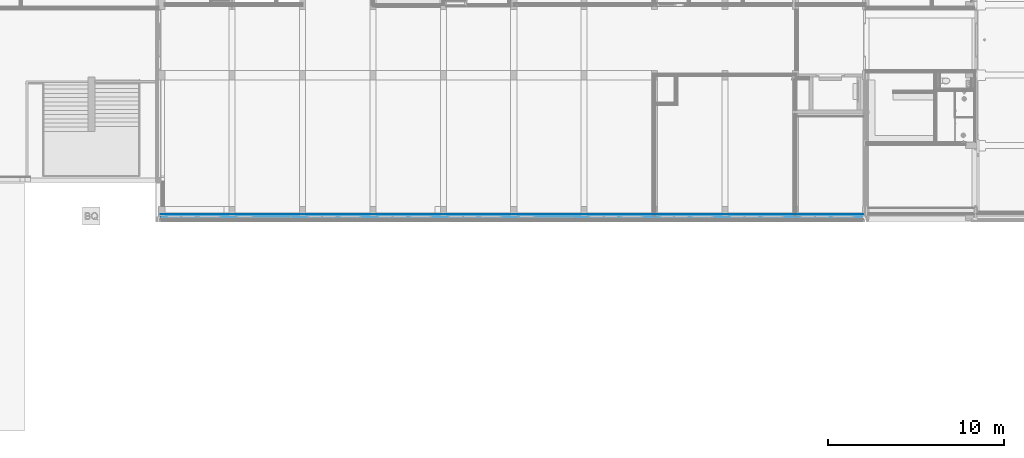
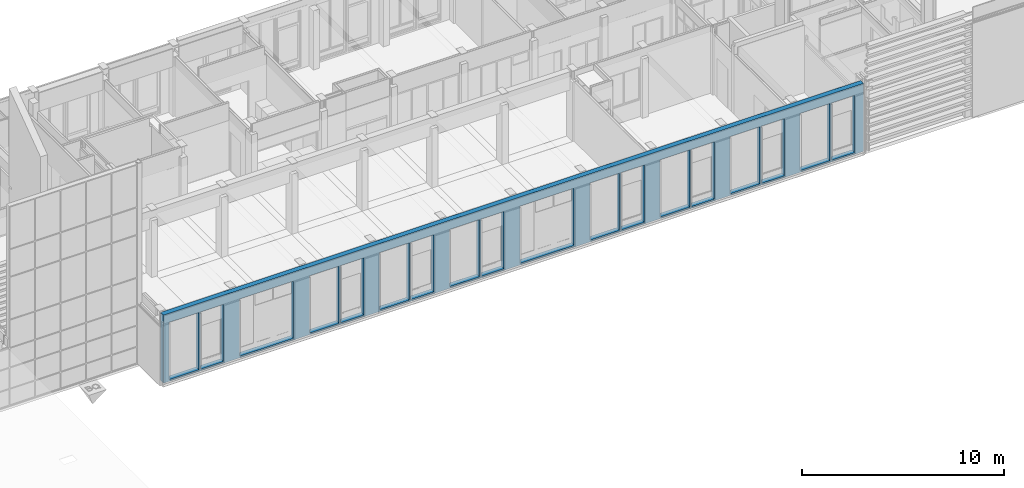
# One storey, part 56 of 109: 2 building element parts, 18 openings, 1 element without a shape of its own.
"""IFC2X3 building model written with IfcOpenShell, lengths in millimetres."""

from ifc_helpers import new_model, entity, si_unit, converted_unit, derived_unit, money_unit, direction, frame, origin_with_axes, place, context, subcontext, project, spatial, faceted_brep, material, type_object, element, aggregate, save


model = new_model("IFC2X3")

# Units and contexts
model_context = context("Model", 3, precision=0.01, world=origin_with_axes(), true_north=direction((0.0, 1.0)))
body_context = subcontext(model_context, "Body", "Model", "MODEL_VIEW")
ifc_project = project(units=[si_unit("LENGTHUNIT", "METRE", prefix="MILLI"), si_unit("AREAUNIT", "SQUARE_METRE"), si_unit("VOLUMEUNIT", "CUBIC_METRE"), converted_unit("PLANEANGLEUNIT", "DEGREE", entity("IfcPlaneAngleMeasure", 0.0174532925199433), si_unit("PLANEANGLEUNIT", "RADIAN"), dimensions=[0, 0, 0, 0, 0, 0, 0]), money_unit("EUR"), converted_unit("TIMEUNIT", "Year", entity("IfcTimeMeasure", 31557600.0), si_unit("TIMEUNIT", "SECOND"), dimensions=[0, 0, 1, 0, 0, 0, 0]), si_unit("MASSUNIT", "GRAM", prefix="KILO"), si_unit("THERMODYNAMICTEMPERATUREUNIT", "DEGREE_CELSIUS"), si_unit("LUMINOUSINTENSITYUNIT", "LUMEN"), si_unit("ENERGYUNIT", "JOULE", prefix="MEGA"), derived_unit("THERMALCONDUCTANCEUNIT", [(si_unit("POWERUNIT", "WATT"), 1), (si_unit("LENGTHUNIT", "METRE"), -1), (si_unit("THERMODYNAMICTEMPERATUREUNIT", "KELVIN"), -1)]), derived_unit("SPECIFICHEATCAPACITYUNIT", [(si_unit("ENERGYUNIT", "JOULE"), 1), (si_unit("MASSUNIT", "GRAM", prefix="KILO"), -1), (si_unit("THERMODYNAMICTEMPERATUREUNIT", "KELVIN"), -1)]), derived_unit("MASSDENSITYUNIT", [(si_unit("MASSUNIT", "GRAM", prefix="KILO"), 1), (si_unit("VOLUMEUNIT", "CUBIC_METRE"), -1)])], contexts=[model_context])

# Site, building, storey
site_placement = place(None, origin_with_axes())
site = spatial("IfcSite", under=ifc_project, at=site_placement, Name="<site naam>", CompositionType="ELEMENT")
building_placement = place(site_placement, origin_with_axes())
building = spatial("IfcBuilding", under=site, at=building_placement, Name="<Naam gebouw>", CompositionType="ELEMENT")
storey_placement = place(building_placement, origin_with_axes())
storey = spatial("IfcBuildingStorey", under=building, at=storey_placement, Name="00 Begane grond", CompositionType="ELEMENT", Elevation=0.0)

# Wall, openings, building element parts
wall_type = type_object("IfcWallType", Name="HSB_285 gevelbeplating 420", PredefinedType="NOTDEFINED")
wall_placement = place(storey_placement, frame((51865.00000000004, -297.9999999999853, 0.0), z_axis=(0.0, 0.0, 1.0), x_axis=(-1.0, 0.0, 0.0)))
wall = element("IfcWall", 1, at=wall_placement, inside=storey, type_object=wall_type, Name="21_Binnenwand_HSB_285")
opening_1_placement = place(wall_placement, frame((37163.99999999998, 0.0, 100.0), z_axis=(0.0, 0.0, 1.0), x_axis=(1.0, 0.0, 0.0)))
element("IfcOpeningElement", 2, at=opening_1_placement, cuts=wall, Name="21_BU-A-01b_305", context=body_context, shape_type="Brep", body=[
    faceted_brep([(-663.0000000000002, -212.9999999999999, 0.0), (-663.0000000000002, -212.9999999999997, 3450.0), (-663.0000000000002, 1.000000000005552, 3450.0), (-663.0000000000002, 1.00000000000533, 0.0), (-663.0000000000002, -421.0000000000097, 0.0), (-663.0000000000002, -421.0000000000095, 3450.0), (663.0000000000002, -212.9999999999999, 3450.0), (663.0000000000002, 1.000000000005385, 3450.0), (663.0000000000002, 1.000000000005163, 0.0), (663.0000000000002, -213.0000000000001, 0.0), (663.0000000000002, -421.0000000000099, 0.0), (663.0000000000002, -421.0000000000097, 3450.0)], [[[0, 1, 2, 3]], [[1, 0, 4, 5]], [[1, 6, 7, 2]], [[7, 8, 3, 2]], [[9, 0, 3, 8]], [[0, 9, 10, 4]], [[5, 4, 10, 11]], [[6, 1, 5, 11]], [[6, 9, 8, 7]], [[9, 6, 11, 10]]]),
])
opening_2_placement = place(wall_placement, frame((38753.9999887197, 0.0, 100.0), z_axis=(0.0, 0.0, 1.0), x_axis=(1.0, 0.0, 0.0)))
element("IfcOpeningElement", 3, at=opening_2_placement, cuts=wall, Name="21_BU-A-01a_305", context=body_context, shape_type="Brep", body=[
    faceted_brep([(-850.9999999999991, -212.9999999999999, 0.0), (-850.9999999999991, -212.9999999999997, 3450.0), (-850.9999999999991, 1.000000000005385, 3450.0), (-850.9999999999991, 1.000000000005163, 0.0), (-850.9999999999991, -421.0000000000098, 0.0), (-850.9999999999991, -421.0000000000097, 3450.0), (850.9999999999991, -212.9999999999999, 3450.0), (851.0000000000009, 1.000000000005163, 3450.0), (851.0000000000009, 1.000000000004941, 0.0), (850.9999999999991, -213.0000000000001, 0.0), (850.9999999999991, -421.00000000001, 0.0), (850.9999999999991, -421.0000000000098, 3450.0)], [[[0, 1, 2, 3]], [[1, 0, 4, 5]], [[1, 6, 7, 2]], [[7, 8, 3, 2]], [[9, 0, 3, 8]], [[0, 9, 10, 4]], [[5, 4, 10, 11]], [[6, 1, 5, 11]], [[6, 9, 8, 7]], [[9, 6, 11, 10]]]),
])
opening_3_placement = place(wall_placement, frame((29164.04998845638, 0.0, 100.0), z_axis=(0.0, 0.0, 1.0), x_axis=(1.0, 0.0, 0.0)))
element("IfcOpeningElement", 4, at=opening_3_placement, cuts=wall, Name="21_BU-A-01b_305", context=body_context, shape_type="Brep", body=[
    faceted_brep([(-663.0000000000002, -212.9999999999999, 0.0), (-663.0000000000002, -212.9999999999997, 3450.0), (-663.0000000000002, 1.000000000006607, 3450.0), (-663.0000000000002, 1.000000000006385, 0.0), (-663.0000000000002, -421.0000000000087, 0.0), (-663.0000000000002, -421.0000000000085, 3450.0), (663.0000000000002, -212.9999999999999, 3450.0), (663.0000000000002, 1.000000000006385, 3450.0), (663.0000000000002, 1.000000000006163, 0.0), (663.0000000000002, -213.0000000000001, 0.0), (663.0000000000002, -421.0000000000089, 0.0), (663.0000000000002, -421.0000000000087, 3450.0)], [[[0, 1, 2, 3]], [[1, 0, 4, 5]], [[1, 6, 7, 2]], [[7, 8, 3, 2]], [[9, 0, 3, 8]], [[0, 9, 10, 4]], [[5, 4, 10, 11]], [[6, 1, 5, 11]], [[6, 9, 8, 7]], [[9, 6, 11, 10]]]),
])
opening_4_placement = place(wall_placement, frame((26754.00000000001, 0.0, 100.0), z_axis=(0.0, 0.0, 1.0), x_axis=(1.0, 0.0, 0.0)))
element("IfcOpeningElement", 5, at=opening_4_placement, cuts=wall, Name="21_BU-A-01a_305", context=body_context, shape_type="Brep", body=[
    faceted_brep([(-850.9999999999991, -212.9999999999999, 0.0), (-850.9999999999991, -212.9999999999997, 3450.0), (-850.9999999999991, 1.000000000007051, 3450.0), (-850.9999999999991, 1.000000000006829, 0.0), (-850.9999999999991, -421.0000000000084, 0.0), (-850.9999999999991, -421.0000000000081, 3450.0), (850.9999999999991, -212.9999999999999, 3450.0), (850.9999999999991, 1.000000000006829, 3450.0), (850.9999999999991, 1.000000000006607, 0.0), (850.9999999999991, -213.0000000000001, 0.0), (850.9999999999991, -421.0000000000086, 0.0), (850.9999999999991, -421.0000000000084, 3450.0)], [[[0, 1, 2, 3]], [[1, 0, 4, 5]], [[1, 6, 7, 2]], [[7, 8, 3, 2]], [[9, 0, 3, 8]], [[0, 9, 10, 4]], [[5, 4, 10, 11]], [[6, 1, 5, 11]], [[6, 9, 8, 7]], [[9, 6, 11, 10]]]),
])
opening_5_placement = place(wall_placement, frame((25163.98053643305, 0.0, 100.0), z_axis=(0.0, 0.0, 1.0), x_axis=(1.0, 0.0, 0.0)))
element("IfcOpeningElement", 6, at=opening_5_placement, cuts=wall, Name="21_BU-A-01b_305", context=body_context, shape_type="Brep", body=[
    faceted_brep([(-663.0000000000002, -212.9999999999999, 0.0), (-663.0000000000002, -212.9999999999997, 3450.0), (-663.0000000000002, 1.000000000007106, 3450.0), (-663.0000000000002, 1.000000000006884, 0.0), (-663.0000000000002, -421.0000000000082, 0.0), (-663.0000000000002, -421.000000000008, 3450.0), (663.0000000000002, -212.9999999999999, 3450.0), (663.0000000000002, 1.00000000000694, 3450.0), (663.0000000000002, 1.000000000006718, 0.0), (663.0000000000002, -213.0000000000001, 0.0), (663.0000000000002, -421.0000000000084, 0.0), (663.0000000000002, -421.0000000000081, 3450.0)], [[[0, 1, 2, 3]], [[1, 0, 4, 5]], [[1, 6, 7, 2]], [[7, 8, 3, 2]], [[9, 0, 3, 8]], [[0, 9, 10, 4]], [[5, 4, 10, 11]], [[6, 1, 5, 11]], [[6, 9, 8, 7]], [[9, 6, 11, 10]]]),
])
opening_6_placement = place(wall_placement, frame((13164.00001128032, 0.0, 100.0), z_axis=(0.0, 0.0, 1.0), x_axis=(1.0, 0.0, 0.0)))
element("IfcOpeningElement", 7, at=opening_6_placement, cuts=wall, Name="21_BU-A-01b_305", context=body_context, shape_type="Brep", body=[
    faceted_brep([(-662.9999999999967, -212.9999999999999, 0.0), (-662.9999999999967, -212.9999999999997, 3450.0), (-662.9999999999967, 1.000000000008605, 3450.0), (-662.9999999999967, 1.000000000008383, 0.0), (-662.9999999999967, -421.0000000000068, 0.0), (-662.9999999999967, -421.0000000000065, 3450.0), (662.9999999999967, -212.9999999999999, 3450.0), (662.9999999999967, 1.000000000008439, 3450.0), (662.9999999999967, 1.000000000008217, 0.0), (662.9999999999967, -213.0000000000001, 0.0), (662.9999999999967, -421.0000000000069, 0.0), (662.9999999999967, -421.0000000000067, 3450.0)], [[[0, 1, 2, 3]], [[1, 0, 4, 5]], [[1, 6, 7, 2]], [[7, 8, 3, 2]], [[9, 0, 3, 8]], [[0, 9, 10, 4]], [[5, 4, 10, 11]], [[6, 1, 5, 11]], [[6, 9, 8, 7]], [[9, 6, 11, 10]]]),
])
opening_7_placement = place(wall_placement, frame((21164.00000000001, 0.0, 100.0), z_axis=(0.0, 0.0, 1.0), x_axis=(1.0, 0.0, 0.0)))
element("IfcOpeningElement", 8, at=opening_7_placement, cuts=wall, Name="21_BU-A-01b_305", context=body_context, shape_type="Brep", body=[
    faceted_brep([(-663.0000000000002, -212.9999999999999, 0.0), (-663.0000000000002, -212.9999999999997, 3450.0), (-663.0000000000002, 1.000000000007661, 3450.0), (-663.0000000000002, 1.000000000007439, 0.0), (-663.0000000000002, -421.0000000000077, 0.0), (-663.0000000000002, -421.0000000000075, 3450.0), (663.0000000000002, -212.9999999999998, 3450.0), (663.0000000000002, 1.000000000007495, 3450.0), (663.0000000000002, 1.000000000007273, 0.0), (663.0000000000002, -213.0000000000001, 0.0), (663.0000000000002, -421.0000000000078, 0.0), (663.0000000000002, -421.0000000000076, 3450.0)], [[[0, 1, 2, 3]], [[1, 0, 4, 5]], [[1, 6, 7, 2]], [[7, 8, 3, 2]], [[9, 0, 3, 8]], [[0, 9, 10, 4]], [[5, 4, 10, 11]], [[6, 1, 5, 11]], [[6, 9, 8, 7]], [[9, 6, 11, 10]]]),
])
opening_8_placement = place(wall_placement, frame((22753.98053643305, 0.0, 100.0), z_axis=(0.0, 0.0, 1.0), x_axis=(1.0, 0.0, 0.0)))
element("IfcOpeningElement", 9, at=opening_8_placement, cuts=wall, Name="21_BU-A-01a_305", context=body_context, shape_type="Brep", body=[
    faceted_brep([(-850.9999999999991, -212.9999999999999, 0.0), (-850.9999999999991, -212.9999999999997, 3450.0), (-850.9999999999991, 1.000000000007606, 3450.0), (-850.9999999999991, 1.000000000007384, 0.0), (-850.9999999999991, -421.0000000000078, 0.0), (-850.9999999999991, -421.0000000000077, 3450.0), (850.9999999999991, -212.9999999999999, 3450.0), (850.9999999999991, 1.000000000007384, 3450.0), (850.9999999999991, 1.000000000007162, 0.0), (850.9999999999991, -213.0000000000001, 0.0), (850.9999999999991, -421.0000000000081, 0.0), (850.9999999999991, -421.0000000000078, 3450.0)], [[[0, 1, 2, 3]], [[1, 0, 4, 5]], [[1, 6, 7, 2]], [[7, 8, 3, 2]], [[9, 0, 3, 8]], [[0, 9, 10, 4]], [[5, 4, 10, 11]], [[6, 1, 5, 11]], [[6, 9, 8, 7]], [[9, 6, 11, 10]]]),
])
opening_9_placement = place(wall_placement, frame((14754.00000000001, 0.0, 100.0), z_axis=(0.0, 0.0, 1.0), x_axis=(1.0, 0.0, 0.0)))
element("IfcOpeningElement", 10, at=opening_9_placement, cuts=wall, Name="21_BU-A-01a_305", context=body_context, shape_type="Brep", body=[
    faceted_brep([(-850.9999999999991, -212.9999999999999, 0.0), (-850.9999999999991, -212.9999999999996, 3450.0), (-850.9999999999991, 1.000000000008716, 3450.0), (-850.9999999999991, 1.000000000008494, 0.0), (-850.9999999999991, -421.0000000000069, 0.0), (-850.9999999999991, -421.0000000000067, 3450.0), (850.9999999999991, -212.9999999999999, 3450.0), (850.9999999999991, 1.000000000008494, 3450.0), (850.9999999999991, 1.000000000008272, 0.0), (850.9999999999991, -213.0000000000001, 0.0), (850.9999999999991, -421.000000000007, 0.0), (850.9999999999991, -421.0000000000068, 3450.0)], [[[0, 1, 2, 3]], [[1, 0, 4, 5]], [[1, 6, 7, 2]], [[7, 8, 3, 2]], [[9, 0, 3, 8]], [[0, 9, 10, 4]], [[5, 4, 10, 11]], [[6, 1, 5, 11]], [[6, 9, 8, 7]], [[9, 6, 11, 10]]]),
])
opening_10_placement = place(wall_placement, frame((10754.00000000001, 0.0, 100.0), z_axis=(0.0, 0.0, 1.0), x_axis=(1.0, 0.0, 0.0)))
element("IfcOpeningElement", 11, at=opening_10_placement, cuts=wall, Name="21_BU-A-01a_305", context=body_context, shape_type="Brep", body=[
    faceted_brep([(-850.9999999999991, -212.9999999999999, 0.0), (-850.9999999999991, -212.9999999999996, 3450.0), (-850.9999999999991, 1.000000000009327, 3450.0), (-850.9999999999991, 1.000000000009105, 0.0), (-850.9999999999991, -421.0000000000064, 0.0), (-850.9999999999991, -421.0000000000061, 3450.0), (850.9999999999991, -212.9999999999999, 3450.0), (850.9999999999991, 1.000000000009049, 3450.0), (850.9999999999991, 1.000000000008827, 0.0), (850.9999999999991, -213.0000000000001, 0.0), (850.9999999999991, -421.0000000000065, 0.0), (850.9999999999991, -421.0000000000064, 3450.0)], [[[0, 1, 2, 3]], [[1, 0, 4, 5]], [[1, 6, 7, 2]], [[7, 8, 3, 2]], [[9, 0, 3, 8]], [[0, 9, 10, 4]], [[5, 4, 10, 11]], [[6, 1, 5, 11]], [[6, 9, 8, 7]], [[9, 6, 11, 10]]]),
])
opening_11_placement = place(wall_placement, frame((5164.000011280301, 0.0, 100.0), z_axis=(0.0, 0.0, 1.0), x_axis=(1.0, 0.0, 0.0)))
element("IfcOpeningElement", 12, at=opening_11_placement, cuts=wall, Name="21_BU-A-01b_305", context=body_context, shape_type="Brep", body=[
    faceted_brep([(-662.9999999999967, -212.9999999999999, 0.0), (-662.9999999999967, -212.9999999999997, 3450.0), (-662.9999999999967, 1.00000000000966, 3450.0), (-662.9999999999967, 1.000000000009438, 0.0), (-662.9999999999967, -421.0000000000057, 0.0), (-662.9999999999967, -421.0000000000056, 3450.0), (662.9999999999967, -212.9999999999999, 3450.0), (662.9999999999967, 1.000000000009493, 3450.0), (662.9999999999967, 1.000000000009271, 0.0), (662.9999999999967, -213.0000000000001, 0.0), (662.9999999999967, -421.0000000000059, 0.0), (662.9999999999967, -421.0000000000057, 3450.0)], [[[0, 1, 2, 3]], [[1, 0, 4, 5]], [[1, 6, 7, 2]], [[7, 8, 3, 2]], [[9, 0, 3, 8]], [[0, 9, 10, 4]], [[5, 4, 10, 11]], [[6, 1, 5, 11]], [[6, 9, 8, 7]], [[9, 6, 11, 10]]]),
])
opening_12_placement = place(wall_placement, frame((6754.000000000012, 0.0, 100.0), z_axis=(0.0, 0.0, 1.0), x_axis=(1.0, 0.0, 0.0)))
element("IfcOpeningElement", 13, at=opening_12_placement, cuts=wall, Name="21_BU-A-01a_305", context=body_context, shape_type="Brep", body=[
    faceted_brep([(-850.9999999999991, -212.9999999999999, 0.0), (-850.9999999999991, -212.9999999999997, 3450.0), (-850.9999999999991, 1.000000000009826, 3450.0), (-850.9999999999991, 1.000000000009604, 0.0), (-850.9999999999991, -421.0000000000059, 0.0), (-850.9999999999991, -421.0000000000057, 3450.0), (850.9999999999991, -212.9999999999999, 3450.0), (850.9999999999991, 1.000000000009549, 3450.0), (850.9999999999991, 1.000000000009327, 0.0), (850.9999999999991, -213.0000000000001, 0.0), (850.9999999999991, -421.0000000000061, 0.0), (850.9999999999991, -421.0000000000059, 3450.0)], [[[0, 1, 2, 3]], [[1, 0, 4, 5]], [[1, 6, 7, 2]], [[7, 8, 3, 2]], [[9, 0, 3, 8]], [[0, 9, 10, 4]], [[5, 4, 10, 11]], [[6, 1, 5, 11]], [[6, 9, 8, 7]], [[9, 6, 11, 10]]]),
])
opening_13_placement = place(wall_placement, frame((1164.000011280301, 0.0, 100.0), z_axis=(0.0, 0.0, 1.0), x_axis=(1.0, 0.0, 0.0)))
element("IfcOpeningElement", 14, at=opening_13_placement, cuts=wall, Name="21_BU-A-01b_305", context=body_context, shape_type="Brep", body=[
    faceted_brep([(-662.9999999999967, -212.9999999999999, 0.0), (-662.9999999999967, -212.9999999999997, 3450.0), (-662.9999999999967, 1.000000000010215, 3450.0), (-662.9999999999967, 1.000000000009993, 0.0), (-662.9999999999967, -421.0000000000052, 0.0), (-662.9999999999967, -421.000000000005, 3450.0), (662.9999999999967, -212.9999999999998, 3450.0), (662.9999999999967, 1.000000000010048, 3450.0), (662.9999999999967, 1.000000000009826, 0.0), (662.9999999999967, -213.0, 0.0), (662.9999999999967, -421.0000000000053, 0.0), (662.9999999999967, -421.0000000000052, 3450.0)], [[[0, 1, 2, 3]], [[1, 0, 4, 5]], [[1, 6, 7, 2]], [[7, 8, 3, 2]], [[9, 0, 3, 8]], [[0, 9, 10, 4]], [[5, 4, 10, 11]], [[6, 1, 5, 11]], [[6, 9, 8, 7]], [[9, 6, 11, 10]]]),
])
opening_14_placement = place(wall_placement, frame((2754.000000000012, 0.0, 100.0), z_axis=(0.0, 0.0, 1.0), x_axis=(1.0, 0.0, 0.0)))
element("IfcOpeningElement", 15, at=opening_14_placement, cuts=wall, Name="21_BU-A-01a_305", context=body_context, shape_type="Brep", body=[
    faceted_brep([(-850.9999999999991, -212.9999999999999, 0.0), (-850.9999999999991, -212.9999999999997, 3450.0), (-850.9999999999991, 1.000000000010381, 3450.0), (-850.9999999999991, 1.000000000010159, 0.0), (-850.9999999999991, -421.0000000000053, 0.0), (-850.9999999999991, -421.0000000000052, 3450.0), (850.9999999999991, -212.9999999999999, 3450.0), (850.9999999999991, 1.000000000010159, 3450.0), (850.9999999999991, 1.000000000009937, 0.0), (850.9999999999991, -213.0000000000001, 0.0), (850.9999999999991, -421.0000000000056, 0.0), (850.9999999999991, -421.0000000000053, 3450.0)], [[[0, 1, 2, 3]], [[1, 0, 4, 5]], [[1, 6, 7, 2]], [[7, 8, 3, 2]], [[9, 0, 3, 8]], [[0, 9, 10, 4]], [[5, 4, 10, 11]], [[6, 1, 5, 11]], [[6, 9, 8, 7]], [[9, 6, 11, 10]]]),
])
opening_15_placement = place(wall_placement, frame((9164.000011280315, 0.0, 100.0), z_axis=(0.0, 0.0, 1.0), x_axis=(1.0, 0.0, 0.0)))
element("IfcOpeningElement", 16, at=opening_15_placement, cuts=wall, Name="21_BU-A-01b_305", context=body_context, shape_type="Brep", body=[
    faceted_brep([(-662.9999999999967, -212.9999999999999, 0.0), (-662.9999999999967, -212.9999999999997, 3450.0), (-662.9999999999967, 1.000000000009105, 3450.0), (-662.9999999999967, 1.000000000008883, 0.0), (-662.9999999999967, -421.0000000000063, 0.0), (-662.9999999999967, -421.000000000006, 3450.0), (662.9999999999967, -212.9999999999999, 3450.0), (662.9999999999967, 1.000000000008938, 3450.0), (662.9999999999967, 1.000000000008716, 0.0), (662.9999999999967, -213.0000000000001, 0.0), (662.9999999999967, -421.0000000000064, 0.0), (662.9999999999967, -421.0000000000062, 3450.0)], [[[0, 1, 2, 3]], [[1, 0, 4, 5]], [[1, 6, 7, 2]], [[7, 8, 3, 2]], [[9, 0, 3, 8]], [[0, 9, 10, 4]], [[5, 4, 10, 11]], [[6, 1, 5, 11]], [[6, 9, 8, 7]], [[9, 6, 11, 10]]]),
])
opening_16_placement = place(wall_placement, frame((34053.00007085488, 0.0, 103.0000398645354), z_axis=(0.0, 0.0, 1.0), x_axis=(1.0, 0.0, 0.0)))
element("IfcOpeningElement", 17, at=opening_16_placement, cuts=wall, Name="21_BU-C-01_305", context=body_context, shape_type="Brep", body=[
    faceted_brep([(-1551.999929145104, -205.0, 0.0), (-1551.999929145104, -204.9999999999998, 3451.998648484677), (-1551.999929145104, 1.000000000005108, 3451.998648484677), (-1551.999929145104, 1.000000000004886, 0.0), (-1551.999929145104, -421.0000000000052, 0.0), (-1551.999929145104, -421.000000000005, 3451.998648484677), (1551.999929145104, -204.9999999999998, 3451.998648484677), (1551.999929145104, 1.000000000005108, 3451.998648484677), (1551.999929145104, 1.000000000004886, 0.0), (1551.999929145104, -205.0, 0.0), (1551.999929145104, -421.0000000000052, 0.0), (1551.999929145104, -421.0000000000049, 3451.998648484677)], [[[0, 1, 2, 3]], [[1, 0, 4, 5]], [[1, 6, 7, 2]], [[7, 8, 3, 2]], [[9, 0, 3, 8]], [[0, 9, 10, 4]], [[5, 4, 10, 11]], [[6, 1, 5, 11]], [[6, 9, 8, 7]], [[9, 6, 11, 10]]]),
])
opening_17_placement = place(wall_placement, frame((18053.00484185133, 0.0, 103.0000398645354), z_axis=(0.0, 0.0, 1.0), x_axis=(1.0, 0.0, 0.0)))
element("IfcOpeningElement", 18, at=opening_17_placement, cuts=wall, Name="21_BU-C-01_305", context=body_context, shape_type="Brep", body=[
    faceted_brep([(-1551.999929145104, -205.0, 0.0), (-1551.999929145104, -204.9999999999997, 3451.998648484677), (-1551.999929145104, 1.000000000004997, 3451.998648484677), (-1551.999929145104, 1.00000000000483, 0.0), (-1551.999929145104, -421.0000000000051, 0.0), (-1551.999929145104, -421.0000000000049, 3451.998648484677), (1551.999929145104, -204.9999999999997, 3451.998648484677), (1551.999929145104, 1.000000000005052, 3451.998648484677), (1551.999929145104, 1.00000000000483, 0.0), (1551.999929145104, -205.0, 0.0), (1551.999929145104, -421.0000000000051, 0.0), (1551.999929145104, -421.0000000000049, 3451.998648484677)], [[[0, 1, 2, 3]], [[1, 0, 4, 5]], [[1, 6, 7, 2]], [[7, 8, 3, 2]], [[9, 0, 3, 8]], [[0, 9, 10, 4]], [[5, 4, 10, 11]], [[6, 1, 5, 11]], [[6, 9, 8, 7]], [[9, 6, 11, 10]]]),
])
opening_18_placement = place(wall_placement, frame((30754.04506446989, 0.0, 100.0), z_axis=(0.0, 0.0, 1.0), x_axis=(1.0, 0.0, 0.0)))
element("IfcOpeningElement", 19, at=opening_18_placement, cuts=wall, Name="21_BU-A-01a_305", context=body_context, shape_type="Brep", body=[
    faceted_brep([(-850.9999999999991, -212.9999999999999, 0.0), (-850.9999999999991, -212.9999999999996, 3450.0), (-850.9999999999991, 1.000000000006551, 3450.0), (-850.9999999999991, 1.000000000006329, 0.0), (-850.9999999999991, -421.0000000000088, 0.0), (-850.9999999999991, -421.0000000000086, 3450.0), (850.9999999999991, -212.9999999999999, 3450.0), (850.9999999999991, 1.000000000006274, 3450.0), (850.9999999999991, 1.000000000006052, 0.0), (850.9999999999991, -213.0000000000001, 0.0), (850.9999999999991, -421.000000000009, 0.0), (850.9999999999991, -421.0000000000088, 3450.0)], [[[0, 1, 2, 3]], [[1, 0, 4, 5]], [[1, 6, 7, 2]], [[7, 8, 3, 2]], [[9, 0, 3, 8]], [[0, 9, 10, 4]], [[5, 4, 10, 11]], [[6, 1, 5, 11]], [[6, 9, 8, 7]], [[9, 6, 11, 10]]]),
])
ifc_material_1 = material(Name="folie_dampdicht")
building_element_part_1_placement = place(wall_placement, origin_with_axes())
building_element_part_1 = element("IfcBuildingElementPart", 20, at=building_element_part_1_placement, material=ifc_material_1, Name="folie_dampdicht", context=body_context, shape_type="Brep", body=[
    faceted_brep([(35690.0, -392.4999999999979, 3.000000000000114), (35690.0, -392.499999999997, 0.0), (39930.00004797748, -392.4999999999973, 0.0), (39930.00004797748, -392.4999999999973, 4100.000039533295), (0.0, -392.4999999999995, 4100.000039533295), (0.0, -392.4999999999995, 3.000000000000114), (3790.00000000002, -392.4999999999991, 3.000000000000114), (3790.00000000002, -392.5, 0.0), (4040.000017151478, -392.4999999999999, 0.0), (4040.000017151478, -392.4999999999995, 3.000000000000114), (11789.99997328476, -392.499999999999, 3.000000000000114), (11789.99997328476, -392.499999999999, 0.0), (11940.00000000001, -392.499999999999, 0.0), (11940.00000000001, -392.4999999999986, 3.000000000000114), (35689.99995939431, -392.4999999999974, 3800.0), (32040.00001154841, -392.4999999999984, 3800.0), (32040.00001154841, -392.4999999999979, 3825.0), (35689.99995939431, -392.4999999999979, 3825.0), (15689.99989679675, -392.4999999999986, 3800.0), (12040.00003882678, -392.499999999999, 3800.0), (12040.00003882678, -392.499999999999, 3825.0), (15689.99989679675, -392.4999999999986, 3825.0), (19689.99974984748, -392.4999999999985, 3800.0), (16040.00005855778, -392.4999999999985, 3800.0), (16040.00005855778, -392.4999999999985, 3825.0), (19689.99974984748, -392.4999999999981, 3825.0), (23690.00012884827, -392.4999999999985, 3800.0), (20039.99985804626, -392.4999999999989, 3800.0), (20039.99985804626, -392.4999999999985, 3825.0), (23690.00012884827, -392.4999999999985, 3825.0), (31690.00021694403, -392.499999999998, 3800.0), (28039.9998997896, -392.499999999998, 3800.0), (28039.9998997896, -392.499999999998, 3825.0), (31690.00021694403, -392.4999999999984, 3825.0), (35690.0, -391.9999999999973, 3.000000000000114), (35690.0, -391.9999999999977, 0.0), (39930.00004797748, -391.9999999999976, 0.0), (39930.00004797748, -391.9999999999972, 4100.000039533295), (0.0, -391.9999999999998, 4100.000039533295), (0.0, -391.9999999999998, 3.000000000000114), (3790.00000000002, -391.9999999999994, 3.000000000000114), (3790.00000000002, -391.9999999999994, 0.0), (4040.000017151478, -391.9999999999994, 0.0), (4040.000017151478, -391.9999999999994, 3.000000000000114), (11789.99997328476, -391.9999999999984, 3.000000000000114), (11789.99997328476, -391.9999999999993, 0.0), (11940.00000000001, -391.9999999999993, 0.0), (11940.00000000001, -391.9999999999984, 3.000000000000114), (35689.99995939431, -391.9999999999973, 3800.0), (32040.00001154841, -391.9999999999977, 3800.0), (32040.00001154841, -391.9999999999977, 3825.0), (35689.99995939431, -391.9999999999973, 3825.0), (15689.99989679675, -391.9999999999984, 3800.0), (12040.00003881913, -391.9999999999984, 3800.0), (12040.00003881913, -391.9999999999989, 3825.0), (15689.99989679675, -391.999999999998, 3825.0), (19689.99974984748, -391.9999999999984, 3800.0), (16040.00005855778, -391.9999999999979, 3800.0), (16040.00005855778, -391.9999999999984, 3825.0), (19689.99974984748, -391.9999999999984, 3825.0), (23690.00012884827, -391.9999999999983, 3800.0), (20039.99985804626, -391.9999999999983, 3800.0), (20039.99985804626, -391.9999999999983, 3825.0), (23690.00012884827, -391.9999999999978, 3825.0), (31690.00021695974, -391.9999999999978, 3800.0), (28039.9998997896, -391.9999999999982, 3800.0), (28039.9998997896, -391.9999999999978, 3825.0), (31690.00021695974, -391.9999999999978, 3825.0)], [[[0, 1, 2, 3, 4, 5, 6, 7, 8, 9, 10, 11, 12, 13], [14, 15, 16, 17], [18, 19, 20, 21], [22, 23, 24, 25], [26, 27, 28, 29], [30, 31, 32, 33]], [[1, 0, 34, 35]], [[1, 35, 36, 2]], [[37, 3, 2, 36]], [[4, 3, 37, 38]], [[39, 5, 4, 38]], [[6, 5, 39, 40]], [[7, 6, 40, 41]], [[7, 41, 42, 8]], [[9, 8, 42, 43]], [[10, 9, 43, 44]], [[11, 10, 44, 45]], [[46, 12, 11, 45]], [[13, 12, 46, 47]], [[0, 13, 47, 34]], [[15, 14, 48, 49]], [[16, 15, 49, 50]], [[17, 16, 50, 51]], [[14, 17, 51, 48]], [[19, 18, 52, 53]], [[20, 19, 53, 54]], [[21, 20, 54, 55]], [[18, 21, 55, 52]], [[23, 22, 56, 57]], [[24, 23, 57, 58]], [[25, 24, 58, 59]], [[22, 25, 59, 56]], [[27, 26, 60, 61]], [[28, 27, 61, 62]], [[29, 28, 62, 63]], [[26, 29, 63, 60]], [[31, 30, 64, 65]], [[32, 31, 65, 66]], [[33, 32, 66, 67]], [[30, 33, 67, 64]], [[47, 46, 45, 44, 43, 42, 41, 40, 39, 38, 37, 36, 35, 34], [48, 51, 50, 49], [52, 55, 54, 53], [56, 59, 58, 57], [60, 63, 62, 61], [64, 67, 66, 65]]]),
])
ifc_material_2 = material(Name="isolatie_houtvezel")
building_element_part_2_placement = place(wall_placement, origin_with_axes())
building_element_part_2 = element("IfcBuildingElementPart", 21, at=building_element_part_2_placement, material=ifc_material_2, Name="isolatie_houtvezel", context=body_context, shape_type="Brep", body=[
    faceted_brep([(11940.00000000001, -391.9999999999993, 3.000000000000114), (35690.0, -391.9999999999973, 3.000000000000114), (35690.0, -391.9999999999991, 0.0), (39930.00004797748, -391.9999999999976, 0.0), (39930.00004797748, -391.9999999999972, 4100.000039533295), (0.0, -391.9999999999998, 4100.000039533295), (0.0, -391.9999999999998, 3.000000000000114), (3790.00000000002, -392.0000000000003, 3.000000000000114), (3790.00000000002, -392.0000000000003, 0.0), (4040.000017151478, -391.9999999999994, 0.0), (4040.000017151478, -391.9999999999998, 3.000000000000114), (11789.99997328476, -391.9999999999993, 3.000000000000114), (11789.99997328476, -391.9999999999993, 0.0), (11940.00000000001, -391.9999999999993, 0.0), (35689.99995939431, -391.9999999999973, 3825.0), (35689.99995939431, -391.9999999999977, 3800.0), (32040.00001154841, -391.9999999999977, 3800.0), (32040.00001154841, -391.9999999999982, 3825.0), (15689.99989679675, -391.9999999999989, 3825.0), (15689.99989679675, -391.9999999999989, 3800.0), (12040.00003881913, -391.9999999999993, 3800.0), (12040.00003881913, -391.9999999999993, 3825.0), (19689.99974984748, -391.9999999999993, 3825.0), (19689.99974984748, -391.9999999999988, 3800.0), (16040.00005855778, -391.9999999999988, 3800.0), (16040.00005855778, -391.9999999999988, 3825.0), (23690.00012884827, -391.9999999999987, 3825.0), (23690.00012884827, -391.9999999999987, 3800.0), (20039.99985804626, -391.9999999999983, 3800.0), (20039.99985804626, -391.9999999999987, 3825.0), (31690.00021695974, -391.9999999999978, 3825.0), (31690.00021695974, -391.9999999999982, 3800.0), (28039.9998997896, -391.9999999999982, 3800.0), (28039.9998997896, -391.9999999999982, 3825.0), (35690.0, -291.9999999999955, 3.000000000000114), (11940.00000000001, -291.9999999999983, 3.000000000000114), (35690.0, -291.9999999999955, 0.0), (11940.00000000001, -291.9999999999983, 0.0), (11789.99997328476, -372.9830893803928, 0.0), (4040.000017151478, -372.9830893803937, 0.0), (3790.00000000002, -332.0000003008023, 0.0), (0.0, -332.0000003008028, 0.0), (0.0, -106.9999999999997, 0.0), (39930.00004797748, -106.9999999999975, 0.0), (39930.00004797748, -106.9999999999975, 4100.000039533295), (0.0, -106.9999999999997, 4100.000039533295), (0.0, -332.0000003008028, 3.000000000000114), (3790.00000000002, -332.0000003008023, 3.000000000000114), (4040.000017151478, -372.9830893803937, 3.000000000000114), (11789.99997328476, -372.9830893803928, 3.000000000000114), (35689.99995939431, -372.9831244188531, 3800.0), (35689.99995939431, -372.9831244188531, 3825.0), (32040.00001154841, -372.9831244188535, 3800.0), (32040.00001154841, -372.9831244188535, 3825.0), (15689.99989679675, -372.9831084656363, 3800.0), (15689.99989679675, -372.9831084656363, 3825.0), (12040.00003852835, -372.9831084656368, 3800.0), (12040.00003852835, -372.9831084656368, 3825.0), (19689.99974984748, -372.9830124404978, 3800.0), (19689.99974984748, -372.9830124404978, 3825.0), (16040.00005855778, -372.9830124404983, 3800.0), (16040.00005855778, -372.9830124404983, 3825.0), (23690.00012884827, -372.9831921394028, 3800.0), (23690.00012884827, -372.9831921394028, 3825.0), (20039.99985804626, -372.9831921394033, 3800.0), (20039.99985804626, -372.9831921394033, 3825.0), (31690.00021755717, -372.9831244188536, 3800.0), (31690.00021755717, -372.9831244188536, 3825.0), (28039.9998997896, -372.9831244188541, 3800.0), (28039.9998997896, -372.9831244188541, 3825.0)], [[[0, 1, 2, 3, 4, 5, 6, 7, 8, 9, 10, 11, 12, 13], [14, 15, 16, 17], [18, 19, 20, 21], [22, 23, 24, 25], [26, 27, 28, 29], [30, 31, 32, 33]], [[34, 1, 0, 35]], [[36, 2, 1, 34]], [[36, 37, 13, 12, 38, 39, 9, 8, 40, 41, 42, 43, 3, 2]], [[43, 44, 4, 3]], [[45, 5, 4, 44]], [[42, 41, 46, 6, 5, 45]], [[47, 7, 6, 46]], [[40, 8, 7, 47]], [[48, 10, 9, 39]], [[49, 11, 10, 48]], [[38, 12, 11, 49]], [[35, 0, 13, 37]], [[50, 15, 14, 51]], [[52, 16, 15, 50]], [[53, 17, 16, 52]], [[51, 14, 17, 53]], [[54, 19, 18, 55]], [[56, 20, 19, 54]], [[57, 21, 20, 56]], [[55, 18, 21, 57]], [[58, 23, 22, 59]], [[60, 24, 23, 58]], [[61, 25, 24, 60]], [[59, 22, 25, 61]], [[62, 27, 26, 63]], [[64, 28, 27, 62]], [[65, 29, 28, 64]], [[63, 26, 29, 65]], [[66, 31, 30, 67]], [[68, 32, 31, 66]], [[69, 33, 32, 68]], [[67, 30, 33, 69]], [[35, 37, 36, 34]], [[48, 39, 38, 49]], [[47, 46, 41, 40]], [[42, 45, 44, 43]], [[52, 50, 51, 53]], [[56, 54, 55, 57]], [[60, 58, 59, 61]], [[64, 62, 63, 65]], [[68, 66, 67, 69]]]),
])
aggregate(wall, [building_element_part_1, building_element_part_2])

save(model, "model.ifc")
